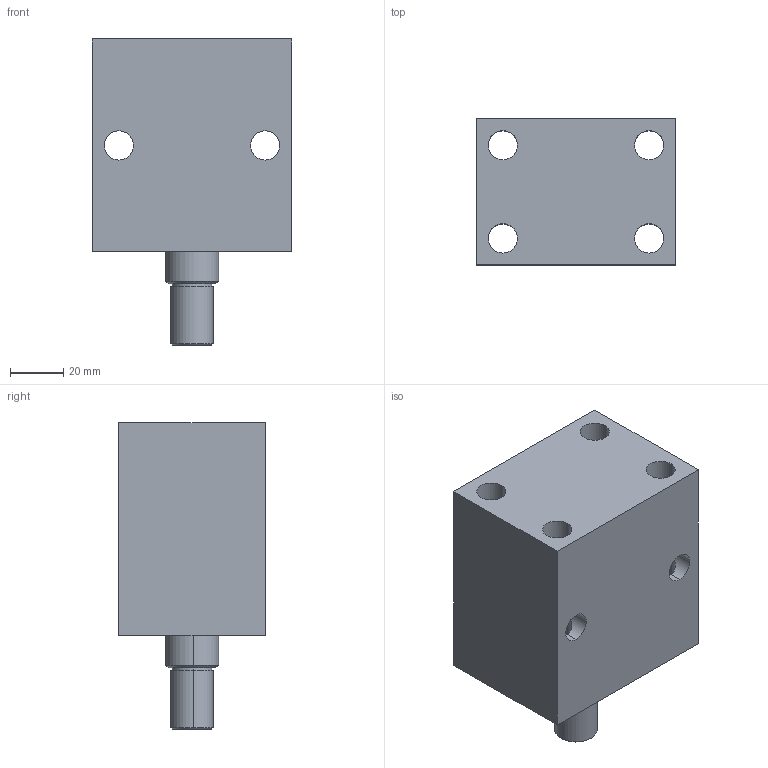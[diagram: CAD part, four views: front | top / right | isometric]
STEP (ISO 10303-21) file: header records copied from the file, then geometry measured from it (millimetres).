
FILE_DESCRIPTION (( 'STEP AP203' ), '1' );
FILE_NAME ('Block cylinder_B01C-225M.STEP', '2022-07-09T18:09:34', ( '' ), ( '' ), 'SwSTEP 2.0', 'SolidWorks 2017', '' );
FILE_SCHEMA (( 'CONFIG_CONTROL_DESIGN' ));
Length unit declared in the file: millimetre
Products named in the file (3): Piston_225M_50sT; Block cylinder_B01C-225M; Body_225M_50ST
Assembly tree (2 placements, depth 2):
  Block cylinder_B01C-225M
    Body_225M_50ST
    Piston_225M_50sT
Bounding box: 75 x 55 x 115 mm (x, y, z)
Volume: 297454.7 mm3; surface area: 51788 mm2
Topology: 2 solids, 2 shells, 344 faces, 937 edges, 612 vertices
Faces by surface type: bspline 148, plane 142, cylinder 46, cone 8
Entity records: 17238 total; most frequent: CARTESIAN_POINT 9298, ORIENTED_EDGE 1866, DIRECTION 1071, EDGE_CURVE 933, VERTEX_POINT 612, VECTOR 541, LINE 541, EDGE_LOOP 383
